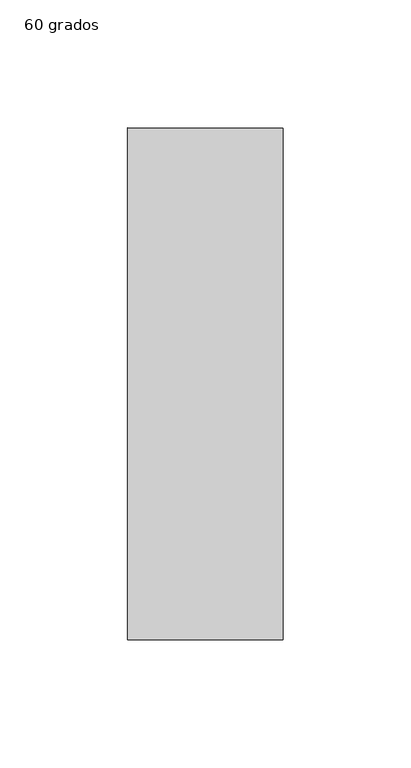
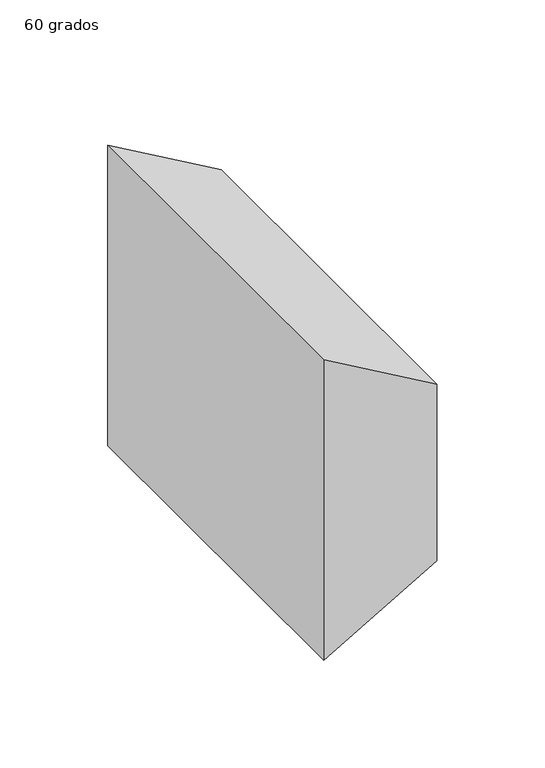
"""IFC4 building model written with IfcOpenShell, lengths in millimetres: duct fitting geometry, M_Transición rectangular - Ángulo : 60 grados."""

from ifc_helpers import new_model, si_unit, frame, origin, place, context, project, spatial, polyline, outline, extrude, source, transform, mapped, element, save


def duct_fitting_60_grados_a3ff5a3d(model_context):
    return source(origin(), model_context, "Body", "SweptSolid", [
        extrude(outline(polyline([(85.0, 0.0), (-85.0, 0.0), (-50.0, 60.6217783), (50.0, 60.6217783), (85.0, 0.0)])), frame((0.0, -100.0, 0.0), z_axis=(0.0, 1.0, 0.0), x_axis=(0.0, 0.0, 1.0)), (0.0, 0.0, 1.0), 200.0),
    ])


if __name__ == "__main__":
    model = new_model("IFC4")
    model_context = context("Model", 3, world=origin())
    ifc_project = project(units=[si_unit("LENGTHUNIT", "METRE", prefix="MILLI")], contexts=[model_context])
    site = spatial("IfcSite", under=ifc_project)
    building = spatial("IfcBuilding", under=site)
    placement = place(None, origin())
    duct_fitting_60_grados_shape = duct_fitting_60_grados_a3ff5a3d(model_context)
    element("IfcDuctFitting", 1, ObjectType="M_Transición rectangular - Ángulo : 60 grados", at=placement, inside=building, context=model_context, shape_type="MappedRepresentation", body=[
        mapped(duct_fitting_60_grados_shape, transform((0.0, 0.0, 0.0), x_axis=(1.0, 0.0, 0.0), y_axis=(0.0, 1.0, 0.0), z_axis=(0.0, 0.0, 1.0))),
    ])
    save(model, "model.ifc")
